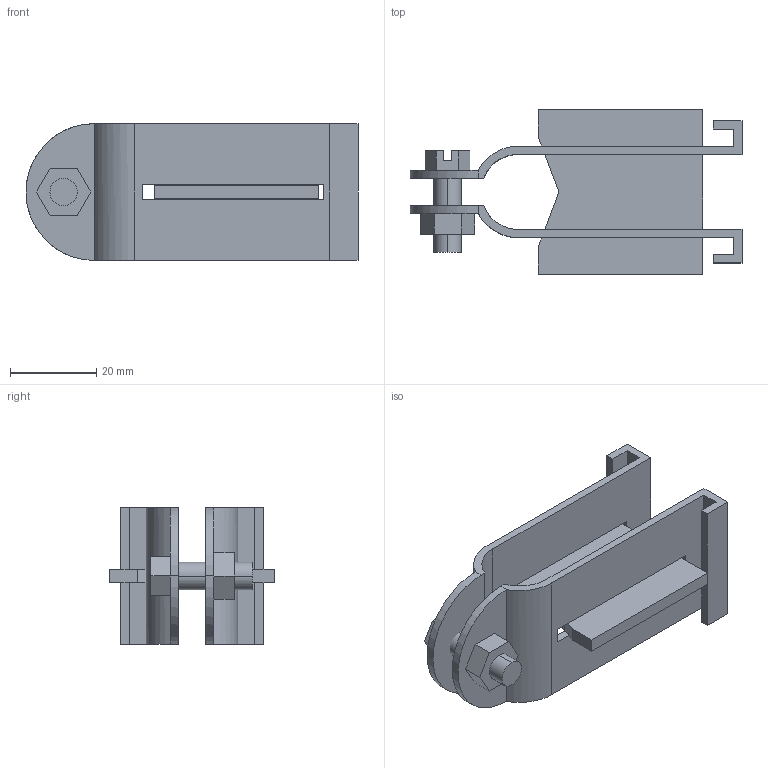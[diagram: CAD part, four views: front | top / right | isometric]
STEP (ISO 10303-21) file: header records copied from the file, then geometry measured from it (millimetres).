
FILE_DESCRIPTION(('TurboCAD Mac Pro'),'Build 980');
FILE_NAME('P1563.stp',' ',(''),(''),'ACIS Interop','IMSI','TurboCAD Mac Pro BY IMSI, INCORPORATED');
FILE_SCHEMA(('automotive_design'));
Length unit declared in the file: inch
Products named in the file (7): 1; 2; 3; 4; 5; 6; 7
Bounding box: 77.03 x 38.12 x 31.74 mm (x, y, z)
Volume: 15505 mm3; surface area: 16039.5 mm2
Topology: 6 solids, 6 shells, 81 faces, 207 edges, 138 vertices
Faces by surface type: plane 65, bspline 16
Entity records: 4439 total; most frequent: CARTESIAN_POINT 701, ORIENTED_EDGE 414, DIRECTION 331, STYLED_ITEM 276, PRESENTATION_STYLE_ASSIGNMENT 276, COLOUR_RGB 276, EDGE_CURVE 207, CURVE_STYLE 189
